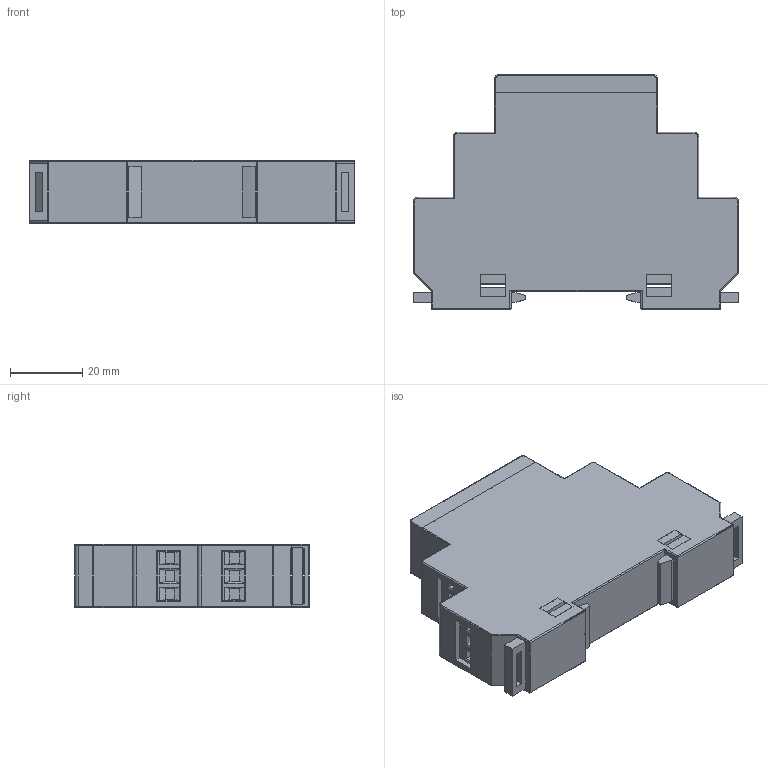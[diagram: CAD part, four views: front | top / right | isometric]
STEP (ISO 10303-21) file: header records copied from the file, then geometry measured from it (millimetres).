
FILE_DESCRIPTION (( 'STEP AP214' ), '1' );
FILE_NAME ('RPI-16-003-UNI.step', '2014-08-19T08:25:43', ( '' ), ( '' ), 'SwSTEP 2.0', 'SolidWorks 2011', '' );
FILE_SCHEMA (( 'AUTOMOTIVE_DESIGN' ));
Length unit declared in the file: millimetre
Products named in the file (1): RPI-16-003-UNI
Bounding box: 90 x 65 x 17.6 mm (x, y, z)
Volume: 16981.9 mm3; surface area: 44935.2 mm2
Topology: 8 solids, 8 shells, 947 faces, 2588 edges, 1643 vertices
Faces by surface type: plane 776, cylinder 118, torus 45, bspline 8
Entity records: 40576 total; most frequent: CARTESIAN_POINT 5903, ORIENTED_EDGE 5160, DIRECTION 4836, EDGE_CURVE 2580, LINE 2044, VECTOR 2044, VERTEX_POINT 1643, AXIS2_PLACEMENT_3D 1396
